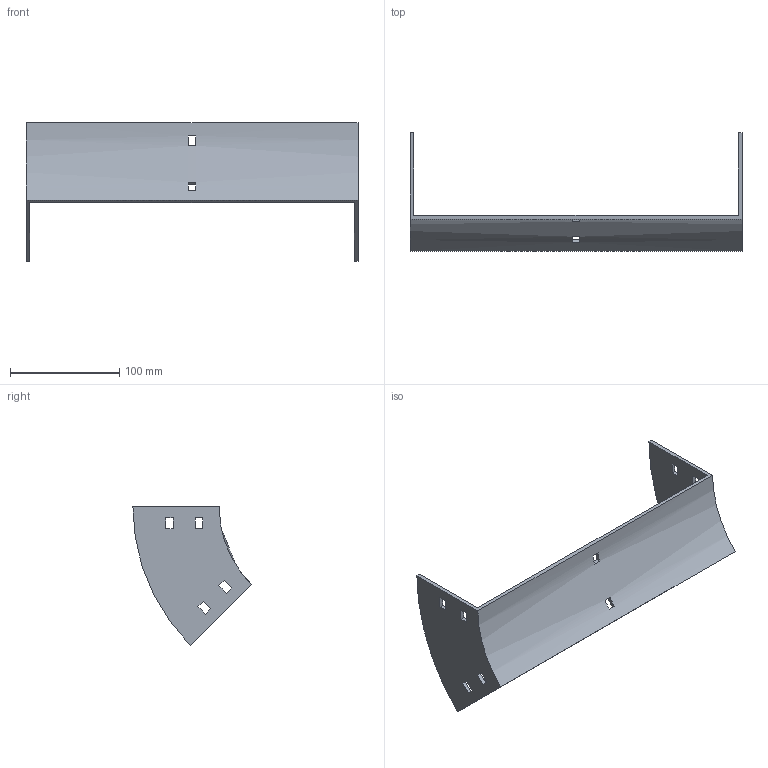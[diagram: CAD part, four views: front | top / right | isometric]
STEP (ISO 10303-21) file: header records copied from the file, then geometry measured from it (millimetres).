
FILE_DESCRIPTION (( 'STEP AP214' ), '1' );
FILE_NAME ('34B1C300.step', '2025-02-21T09:29:28', ( '' ), ( '' ), 'SwSTEP 2.0', 'SolidWorks 2023', '' );
FILE_SCHEMA (( 'AUTOMOTIVE_DESIGN' ));
Length unit declared in the file: millimetre
Products named in the file (1): 34B1C300
Bounding box: 304 x 108.29 x 126.57 mm (x, y, z)
Volume: 141284.1 mm3; surface area: 86065.3 mm2
Topology: 1 solids, 1 shells, 50 faces, 144 edges, 96 vertices
Faces by surface type: plane 46, cylinder 4
Entity records: 1687 total; most frequent: CARTESIAN_POINT 291, ORIENTED_EDGE 288, DIRECTION 262, EDGE_CURVE 144, LINE 128, VECTOR 128, VERTEX_POINT 96, EDGE_LOOP 70
